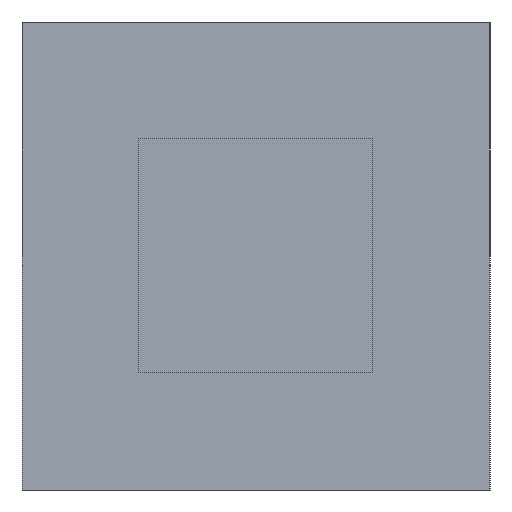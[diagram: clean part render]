
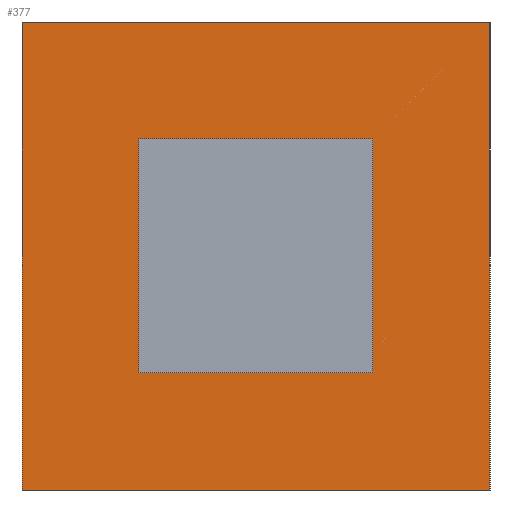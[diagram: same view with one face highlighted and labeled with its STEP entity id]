
A CAD part, left-side view. The second image highlights one B-rep face of the part: STEP entity #377.
In plain terms, the highlighted planar face has unit normal (-1, 0, 0) as drawn and (0, 0, -1) by its records, which use the part's own axes.
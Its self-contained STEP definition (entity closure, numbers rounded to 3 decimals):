
#28=FACE_BOUND('',#62,.T.);
#39=FACE_OUTER_BOUND('',#61,.T.);
#61=EDGE_LOOP('',(#291,#292,#293,#294));
#62=EDGE_LOOP('',(#295,#296,#297,#298));
#77=LINE('',#576,#125);
#80=LINE('',#582,#128);
#83=LINE('',#588,#131);
#86=LINE('',#592,#134);
#89=LINE('',#600,#137);
#92=LINE('',#606,#140);
#95=LINE('',#612,#143);
#98=LINE('',#616,#146);
#125=VECTOR('',#475,10.);
#128=VECTOR('',#480,10.);
#131=VECTOR('',#485,10.);
#134=VECTOR('',#490,10.);
#137=VECTOR('',#495,10.);
#140=VECTOR('',#500,10.);
#143=VECTOR('',#505,10.);
#146=VECTOR('',#510,10.);
#173=VERTEX_POINT('',#573);
#174=VERTEX_POINT('',#575);
#176=VERTEX_POINT('',#581);
#178=VERTEX_POINT('',#587);
#181=VERTEX_POINT('',#597);
#182=VERTEX_POINT('',#599);
#184=VERTEX_POINT('',#605);
#186=VERTEX_POINT('',#611);
#205=EDGE_CURVE('',#174,#173,#77,.T.);
#208=EDGE_CURVE('',#176,#174,#80,.T.);
#211=EDGE_CURVE('',#178,#176,#83,.T.);
#214=EDGE_CURVE('',#173,#178,#86,.T.);
#217=EDGE_CURVE('',#182,#181,#89,.T.);
#220=EDGE_CURVE('',#184,#182,#92,.T.);
#223=EDGE_CURVE('',#186,#184,#95,.T.);
#226=EDGE_CURVE('',#181,#186,#98,.T.);
#291=ORIENTED_EDGE('',*,*,#226,.T.);
#292=ORIENTED_EDGE('',*,*,#223,.T.);
#293=ORIENTED_EDGE('',*,*,#220,.T.);
#294=ORIENTED_EDGE('',*,*,#217,.T.);
#295=ORIENTED_EDGE('',*,*,#214,.T.);
#296=ORIENTED_EDGE('',*,*,#211,.T.);
#297=ORIENTED_EDGE('',*,*,#208,.T.);
#298=ORIENTED_EDGE('',*,*,#205,.T.);
#356=PLANE('',#452);
#377=ADVANCED_FACE('',(#39,#28),#356,.T.);
#452=AXIS2_PLACEMENT_3D('',#618,#513,#514);
#475=DIRECTION('',(0.,1.,0.));
#480=DIRECTION('',(1.,0.,0.));
#485=DIRECTION('',(0.,-1.,0.));
#490=DIRECTION('',(-1.,0.,0.));
#495=DIRECTION('',(0.,-1.,0.));
#500=DIRECTION('',(1.,0.,0.));
#505=DIRECTION('',(0.,1.,0.));
#510=DIRECTION('',(-1.,0.,0.));
#513=DIRECTION('center_axis',(0.,0.,-1.));
#514=DIRECTION('ref_axis',(-1.,0.,0.));
#573=CARTESIAN_POINT('',(10.,10.,-40.));
#575=CARTESIAN_POINT('',(10.,-10.,-40.));
#576=CARTESIAN_POINT('',(10.,10.,-40.));
#581=CARTESIAN_POINT('',(-10.,-10.,-40.));
#582=CARTESIAN_POINT('',(10.,-10.,-40.));
#587=CARTESIAN_POINT('',(-10.,10.,-40.));
#588=CARTESIAN_POINT('',(-10.,-10.,-40.));
#592=CARTESIAN_POINT('',(-10.,10.,-40.));
#597=CARTESIAN_POINT('',(20.,-20.,-40.));
#599=CARTESIAN_POINT('',(20.,20.,-40.));
#600=CARTESIAN_POINT('',(20.,-20.,-40.));
#605=CARTESIAN_POINT('',(-20.,20.,-40.));
#606=CARTESIAN_POINT('',(20.,20.,-40.));
#611=CARTESIAN_POINT('',(-20.,-20.,-40.));
#612=CARTESIAN_POINT('',(-20.,20.,-40.));
#616=CARTESIAN_POINT('',(-20.,-20.,-40.));
#618=CARTESIAN_POINT('Origin',(0.,0.,-40.));
